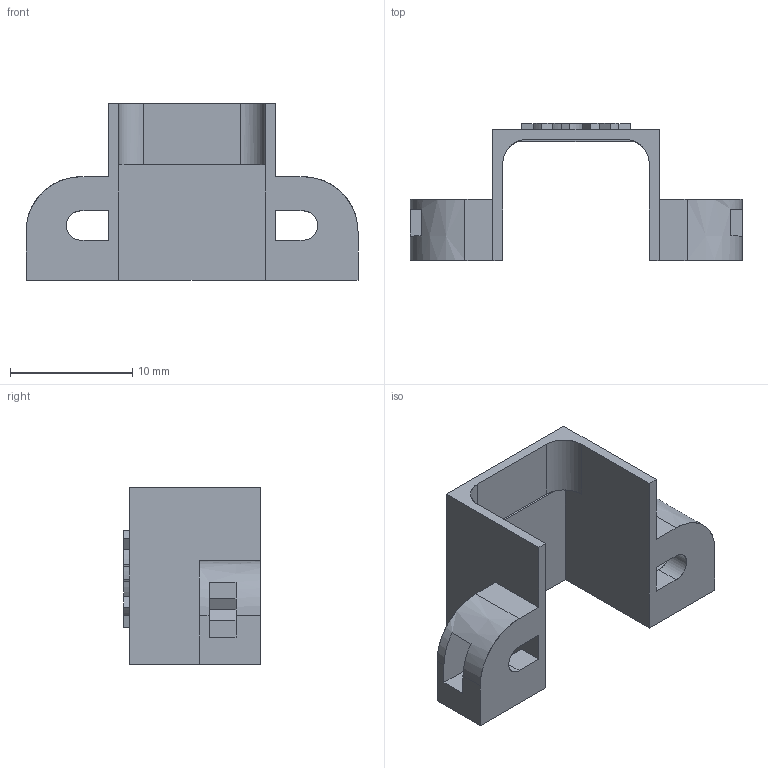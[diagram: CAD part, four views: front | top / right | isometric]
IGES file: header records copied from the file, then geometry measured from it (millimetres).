
Start section: SolidWorks IGES file using analytic representation for surfaces
Global section: file name: C:\Users\Colin\Dropbox\personal projects\Seeedstudio 2WD Robot\Production CAD\N20MiniGearMotor_Holderv8_3.IGS; native system: SolidWorks 2012; preprocessor: SolidWorks 2012; author: Colin; date: 120829.084235; units: millimetre
Bounding box: 27.2 x 11.21 x 14.5 mm (x, y, z)
Surface area: 1568.3 mm2 (no closed solid volume)
Topology: 0 solids, 0 shells, 88 faces, 766 edges, 766 vertices
Faces by surface type: bspline 61, revolution 27
